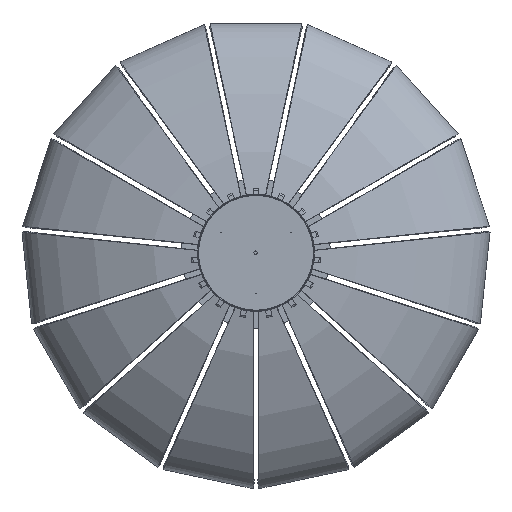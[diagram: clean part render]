
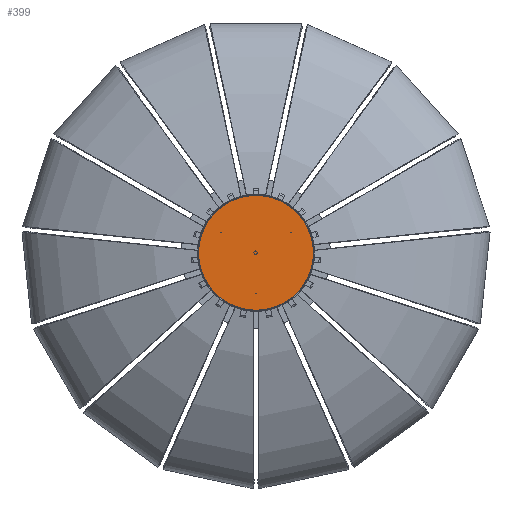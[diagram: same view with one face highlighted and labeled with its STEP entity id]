
A CAD part, top view. The second image highlights one B-rep face of the part: STEP entity #399.
In plain terms, the highlighted planar face has unit normal (0, 0, 1).
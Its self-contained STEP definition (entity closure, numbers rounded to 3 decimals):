
#399=ADVANCED_FACE('',(#719),#4587,.T.);
#719=FACE_OUTER_BOUND('',#1040,.T.);
#1040=EDGE_LOOP('',(#1374,#1375));
#1374=ORIENTED_EDGE('',*,*,#2827,.F.);
#1375=ORIENTED_EDGE('',*,*,#2831,.F.);
#2827=EDGE_CURVE('',#4108,#4107,#3558,.T.);
#2831=EDGE_CURVE('',#4107,#4108,#3562,.T.);
#3558=(
BOUNDED_CURVE()
B_SPLINE_CURVE(2,(#5388,#5389,#5390,#5391,#5392),.UNSPECIFIED.,.F.,.F.)
B_SPLINE_CURVE_WITH_KNOTS((3,2,3),(-307.876,-153.938,
0.),.UNSPECIFIED.)
CURVE()
GEOMETRIC_REPRESENTATION_ITEM()
RATIONAL_B_SPLINE_CURVE((1.,0.707,1.,0.707,1.))
REPRESENTATION_ITEM('')
);
#3562=(
BOUNDED_CURVE()
B_SPLINE_CURVE(2,(#5406,#5407,#5408,#5409,#5410),.UNSPECIFIED.,.F.,.F.)
B_SPLINE_CURVE_WITH_KNOTS((3,2,3),(-615.751,-461.813,
-307.876),.UNSPECIFIED.)
CURVE()
GEOMETRIC_REPRESENTATION_ITEM()
RATIONAL_B_SPLINE_CURVE((1.,0.707,1.,0.707,1.))
REPRESENTATION_ITEM('')
);
#4107=VERTEX_POINT('',#5364);
#4108=VERTEX_POINT('',#5365);
#4587=PLANE('',#4872);
#4872=AXIS2_PLACEMENT_3D('',#5294,#5069,$);
#5069=DIRECTION('',(0.,0.,1.));
#5294=CARTESIAN_POINT('',(-98.,-98.,891.168));
#5364=CARTESIAN_POINT('',(98.,0.,891.168));
#5365=CARTESIAN_POINT('',(-98.,0.,891.168));
#5388=CARTESIAN_POINT('',(-98.,0.,891.168));
#5389=CARTESIAN_POINT('',(-98.,98.,891.168));
#5390=CARTESIAN_POINT('',(0.,98.,891.168));
#5391=CARTESIAN_POINT('',(98.,98.,891.168));
#5392=CARTESIAN_POINT('',(98.,0.,891.168));
#5406=CARTESIAN_POINT('',(98.,0.,891.168));
#5407=CARTESIAN_POINT('',(98.,-98.,891.168));
#5408=CARTESIAN_POINT('',(0.,-98.,891.168));
#5409=CARTESIAN_POINT('',(-98.,-98.,891.168));
#5410=CARTESIAN_POINT('',(-98.,0.,891.168));
